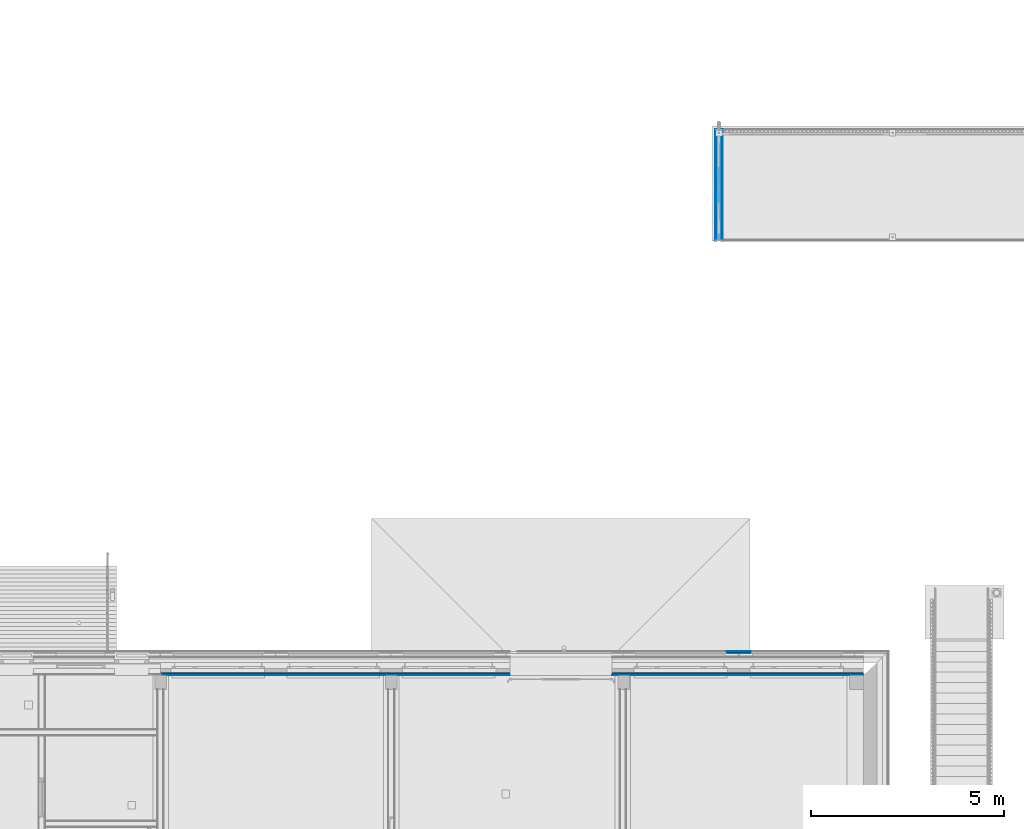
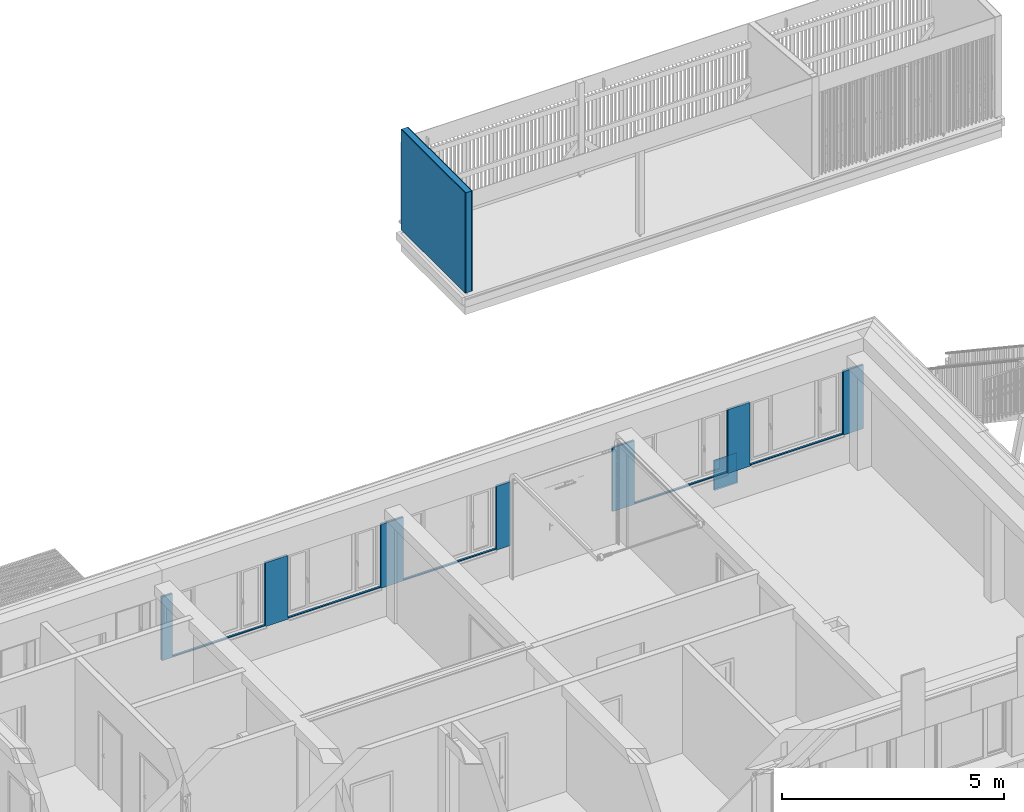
# One storey, part 48 of 418: 7 building element parts, 6 openings, 3 elements without a shape of their own.
"""IFC2X3 building model written with IfcOpenShell, lengths in millimetres."""

from ifc_helpers import new_model, entity, si_unit, converted_unit, derived_unit, money_unit, direction, frame, origin_with_axes, origin_2d_with_axis, place, context, subcontext, project, spatial, polyline, rectangle, outline, extrude, material, type_object, element, aggregate, save


model = new_model("IFC2X3")

# Units and contexts
model_context = context("Model", 3, precision=0.01, world=origin_with_axes(), true_north=direction((0.0, 1.0)))
body_context = subcontext(model_context, "Body", "Model", "MODEL_VIEW")
ifc_project = project(units=[si_unit("LENGTHUNIT", "METRE", prefix="MILLI"), si_unit("AREAUNIT", "SQUARE_METRE"), si_unit("VOLUMEUNIT", "CUBIC_METRE"), converted_unit("PLANEANGLEUNIT", "DEGREE", entity("IfcPlaneAngleMeasure", 0.0174532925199), si_unit("PLANEANGLEUNIT", "RADIAN"), dimensions=[0, 0, 0, 0, 0, 0, 0]), si_unit("SOLIDANGLEUNIT", "STERADIAN"), money_unit("EUR"), converted_unit("TIMEUNIT", "Year", entity("IfcTimeMeasure", 31556926.0), si_unit("TIMEUNIT", "SECOND"), dimensions=[0, 0, 1, 0, 0, 0, 0]), si_unit("MASSUNIT", "GRAM", prefix="KILO"), si_unit("THERMODYNAMICTEMPERATUREUNIT", "DEGREE_CELSIUS"), si_unit("LUMINOUSINTENSITYUNIT", "LUMEN"), si_unit("ENERGYUNIT", "JOULE", prefix="MEGA"), derived_unit("THERMALCONDUCTANCEUNIT", [(si_unit("POWERUNIT", "WATT"), 1), (si_unit("LENGTHUNIT", "METRE"), -1), (si_unit("THERMODYNAMICTEMPERATUREUNIT", "KELVIN"), -1)]), derived_unit("SPECIFICHEATCAPACITYUNIT", [(si_unit("ENERGYUNIT", "JOULE"), 1), (si_unit("MASSUNIT", "GRAM", prefix="KILO"), -1), (si_unit("THERMODYNAMICTEMPERATUREUNIT", "KELVIN"), -1)]), derived_unit("MASSDENSITYUNIT", [(si_unit("MASSUNIT", "GRAM", prefix="KILO"), 1), (si_unit("VOLUMEUNIT", "CUBIC_METRE"), -1)])], contexts=[model_context])

# Site, building, storey
site_placement = place(None, origin_with_axes())
site = spatial("IfcSite", under=ifc_project, at=site_placement, Name="Paldiski mnt 245/1, Tallinn, Harjumaa", CompositionType="COMPLEX")
building_placement = place(site_placement, origin_with_axes())
building = spatial("IfcBuilding", under=site, at=building_placement, Name="RKAS Hoone üldnimetus (kasutust iseloomustav) -> IFC Project Manager -> SOLIBRI", CompositionType="ELEMENT")
storey_placement = place(building_placement, origin_with_axes())
storey = spatial("IfcBuildingStorey", under=building, at=storey_placement, Name="Esimene korrus", CompositionType="ELEMENT", Elevation=0.0)

# Covering, building element parts
covering_type = type_object("IfcCoveringType", Name="VS-02_Cembrit_c040 50", PredefinedType="NOTDEFINED")
covering_placement = place(storey_placement, frame((-20154.0, 460.0, 0.999999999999), z_axis=(0.0, 0.0, 1.0), x_axis=(-1.0, 0.0, 0.0)))
covering = element("IfcCovering", 1, at=covering_placement, inside=storey, type_object=covering_type, Name="VS-02", PredefinedType="NOTDEFINED")
ifc_material_1 = material(Name="Cembrit_C040")
building_element_part_1_placement = place(covering_placement, origin_with_axes())
building_element_part_1 = element("IfcBuildingElementPart", 2, at=building_element_part_1_placement, material=ifc_material_1, Name="Cembrit_C040", context=body_context, shape_type="SweptSolid", body=[
    extrude(outline(polyline([(0.0, -50.0), (612.0, -50.0), (612.0, -42.0), (0.0, -42.0), (0.0, -50.0)])), origin_with_axes(), (0.0, 0.0, 1.0), 810.0),
])
ifc_material_2 = material(Name="VKR-06_Õhkvahe")
building_element_part_2_placement = place(covering_placement, origin_with_axes())
building_element_part_2 = element("IfcBuildingElementPart", 3, at=building_element_part_2_placement, material=ifc_material_2, Name="VKR-06_Õhkvahe", context=body_context, shape_type="SweptSolid", body=[
    extrude(outline(polyline([(0.0, -42.0), (612.0, -42.0), (612.0, 0.0), (0.0, 0.0), (0.0, -42.0)])), origin_with_axes(), (0.0, 0.0, 1.0), 810.0),
])
aggregate(covering, [building_element_part_1, building_element_part_2])

# Wall, openings, building element parts
wall_type = type_object("IfcWallType", Name="VS-04_uued_sisekihid 63", PredefinedType="NOTDEFINED")
wall_placement = place(storey_placement, frame((-17230.0, -108.0, 810.0), z_axis=(0.0, 0.0, 1.0), x_axis=(-1.0, 0.0, 0.0)))
wall = element("IfcWall", 4, at=wall_placement, inside=storey, type_object=wall_type, Name="VS-04")
opening_1_placement = place(wall_placement, frame((16730.0, -3.81888964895e-10, 30.0), z_axis=(0.0, 0.0, 1.0), x_axis=(1.0, 0.0, 0.0)))
element("IfcOpeningElement", 5, at=opening_1_placement, cuts=wall, Name="AVA", context=body_context, shape_type="SweptSolid", body=[
    extrude(rectangle(XDim=2420.0, YDim=1720.0, at=origin_2d_with_axis()), frame((0.0, 17.0000000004, 860.0), z_axis=(0.0, 1.0, 0.0), x_axis=(1.0, 0.0, 0.0)), (0.0, 0.0, -1.0), 143.0),
    extrude(rectangle(XDim=2420.0, YDim=1720.0, at=origin_2d_with_axis()), frame((0.0, 17.0000000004, 860.0), z_axis=(0.0, -1.0, 0.0), x_axis=(1.0, 0.0, 0.0)), (0.0, 0.0, -1.0), 143.0),
])
opening_2_placement = place(wall_placement, frame((13730.0, -3.13402082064e-10, 30.0), z_axis=(0.0, 0.0, 1.0), x_axis=(1.0, 0.0, 0.0)))
element("IfcOpeningElement", 6, at=opening_2_placement, cuts=wall, Name="AVA", context=body_context, shape_type="SweptSolid", body=[
    extrude(rectangle(XDim=2420.0, YDim=1720.0, at=origin_2d_with_axis()), frame((0.0, 17.0000000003, 860.0), z_axis=(0.0, 1.0, 0.0), x_axis=(1.0, 0.0, 0.0)), (0.0, 0.0, -1.0), 143.0),
    extrude(rectangle(XDim=2420.0, YDim=1720.0, at=origin_2d_with_axis()), frame((0.0, 17.0000000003, 860.0), z_axis=(0.0, -1.0, 0.0), x_axis=(1.0, 0.0, 0.0)), (0.0, 0.0, -1.0), 143.0),
])
opening_3_placement = place(wall_placement, frame((10730.0, -2.4492907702e-10, 30.0), z_axis=(0.0, 0.0, 1.0), x_axis=(1.0, 0.0, 0.0)))
element("IfcOpeningElement", 7, at=opening_3_placement, cuts=wall, Name="AVA", context=body_context, shape_type="SweptSolid", body=[
    extrude(rectangle(XDim=2420.0, YDim=1720.0, at=origin_2d_with_axis()), frame((0.0, 17.0000000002, 860.0), z_axis=(0.0, 1.0, 0.0), x_axis=(1.0, 0.0, 0.0)), (0.0, 0.0, -1.0), 143.0),
    extrude(rectangle(XDim=2420.0, YDim=1720.0, at=origin_2d_with_axis()), frame((0.0, 17.0000000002, 860.0), z_axis=(0.0, -1.0, 0.0), x_axis=(1.0, 0.0, 0.0)), (0.0, 0.0, -1.0), 143.0),
])
opening_4_placement = place(wall_placement, frame((4730.0, -1.07969189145e-10, 30.0), z_axis=(0.0, 0.0, 1.0), x_axis=(1.0, 0.0, 0.0)))
element("IfcOpeningElement", 8, at=opening_4_placement, cuts=wall, Name="AVA", context=body_context, shape_type="SweptSolid", body=[
    extrude(rectangle(XDim=2420.0, YDim=1720.0, at=origin_2d_with_axis()), frame((0.0, 17.0000000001, 860.0), z_axis=(0.0, 1.0, 0.0), x_axis=(1.0, 0.0, 0.0)), (0.0, 0.0, -1.0), 143.0),
    extrude(rectangle(XDim=2420.0, YDim=1720.0, at=origin_2d_with_axis()), frame((0.0, 17.0000000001, 860.0), z_axis=(0.0, -1.0, 0.0), x_axis=(1.0, 0.0, 0.0)), (0.0, 0.0, -1.0), 143.0),
])
opening_5_placement = place(wall_placement, frame((1730.0, 0.0, 30.0), z_axis=(0.0, 0.0, 1.0), x_axis=(1.0, 0.0, 0.0)))
element("IfcOpeningElement", 9, at=opening_5_placement, cuts=wall, Name="AVA", context=body_context, shape_type="SweptSolid", body=[
    extrude(rectangle(XDim=2420.0, YDim=1720.0, at=origin_2d_with_axis()), frame((0.0, 17.0, 860.0), z_axis=(0.0, 1.0, 0.0), x_axis=(1.0, 0.0, 0.0)), (0.0, 0.0, -1.0), 143.0),
    extrude(rectangle(XDim=2420.0, YDim=1720.0, at=origin_2d_with_axis()), frame((0.0, 17.0, 860.0), z_axis=(0.0, -1.0, 0.0), x_axis=(1.0, 0.0, 0.0)), (0.0, 0.0, -1.0), 143.0),
])
opening_6_placement = place(wall_placement, frame((7835.0, -1.78843051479e-10, -810.0), z_axis=(0.0, 0.0, 1.0), x_axis=(1.0, 0.0, 0.0)))
element("IfcOpeningElement", 10, at=opening_6_placement, cuts=wall, Name="AVA", context=body_context, shape_type="SweptSolid", body=[
    extrude(rectangle(XDim=2650.0, YDim=2560.0, at=origin_2d_with_axis()), frame((0.0, 187.0, 1280.0), z_axis=(0.0, 1.0, 0.0), x_axis=(1.0, 0.0, 0.0)), (0.0, 0.0, -1.0), 313.0),
    extrude(rectangle(XDim=2650.0, YDim=2560.0, at=origin_2d_with_axis()), frame((0.0, 187.0, 1280.0), z_axis=(0.0, -1.0, 0.0), x_axis=(1.0, 0.0, 0.0)), (0.0, 0.0, -1.0), 313.0),
])
building_element_part_3_placement = place(wall_placement, origin_with_axes())
building_element_part_3 = element("IfcBuildingElementPart", 11, at=building_element_part_3_placement, material=ifc_material_2, Name="VKR-06_Õhkvahe", context=body_context, shape_type="SweptSolid", body=[
    extrude(outline(polyline([(0.0, -63.0), (18210.0, -63.0), (18210.0, -13.0), (0.0, -13.0), (0.0, -63.0)])), origin_with_axes(), (0.0, 0.0, 1.0), 1750.0),
])
ifc_material_3 = material(Name="Kipsplaat Knauf GKF vm")
building_element_part_4_placement = place(wall_placement, origin_with_axes())
building_element_part_4 = element("IfcBuildingElementPart", 12, at=building_element_part_4_placement, material=ifc_material_3, Name="Kipsplaat Knauf GKF vm", context=body_context, shape_type="SweptSolid", body=[
    extrude(outline(polyline([(0.0, -13.0), (18210.0, -13.0), (18210.0, 0.0), (0.0, 0.0), (0.0, -13.0)])), origin_with_axes(), (0.0, 0.0, 1.0), 1750.0),
])
aggregate(wall, [building_element_part_3, building_element_part_4])

# Proxy, building element parts
building_element_proxy_type = type_object("IfcBuildingElementProxyType", Name="Pürgimaja_varjualuse_välissein 190", PredefinedType="NOTDEFINED")
proxy_placement = place(storey_placement, frame((-20974.2718012, 11149.7949563, -960.0), z_axis=(0.0, 0.0, 1.0), x_axis=(0.0, 1.0, 0.0)))
proxy = element("IfcBuildingElementProxy", 13, at=proxy_placement, inside=storey, type_object=building_element_proxy_type, Name="Välissein_1")
ifc_material_4 = material(Name="Voodrilaud UYS 21x120mm")
building_element_part_5_placement = place(proxy_placement, origin_with_axes())
building_element_part_5 = element("IfcBuildingElementPart", 14, at=building_element_part_5_placement, material=ifc_material_4, Name="Voodrilaud UYS 21x120mm", context=body_context, shape_type="SweptSolid", body=[
    extrude(outline(polyline([(0.0, -95.0), (2890.00000143, -95.0), (2890.00000143, -75.0), (0.0, -75.0), (0.0, -95.0)])), origin_with_axes(), (0.0, 0.0, 1.0), 2752.59465133),
])
ifc_material_5 = material(Name="Puitkarkass 150x150 ja 50x150 mm/õhuvahe")
building_element_part_6_placement = place(proxy_placement, origin_with_axes())
building_element_part_6 = element("IfcBuildingElementPart", 15, at=building_element_part_6_placement, material=ifc_material_5, Name="Puitkarkass 150x150 ja 50x150 mm/õhuvahe", context=body_context, shape_type="SweptSolid", body=[
    extrude(outline(polyline([(0.0, -75.0), (2890.00000143, -75.0), (2890.00000143, 75.0), (0.0, 75.0), (0.0, -75.0)])), origin_with_axes(), (0.0, 0.0, 1.0), 2752.59465133),
])
building_element_part_7_placement = place(proxy_placement, origin_with_axes())
building_element_part_7 = element("IfcBuildingElementPart", 16, at=building_element_part_7_placement, material=ifc_material_4, Name="Voodrilaud UYS 21x120mm", context=body_context, shape_type="SweptSolid", body=[
    extrude(outline(polyline([(0.0, 75.0), (2890.00000143, 75.0), (2890.00000143, 95.0), (0.0, 95.0), (0.0, 75.0)])), origin_with_axes(), (0.0, 0.0, 1.0), 2752.59465133),
])
aggregate(proxy, [building_element_part_5, building_element_part_6, building_element_part_7])

save(model, "model.ifc")
